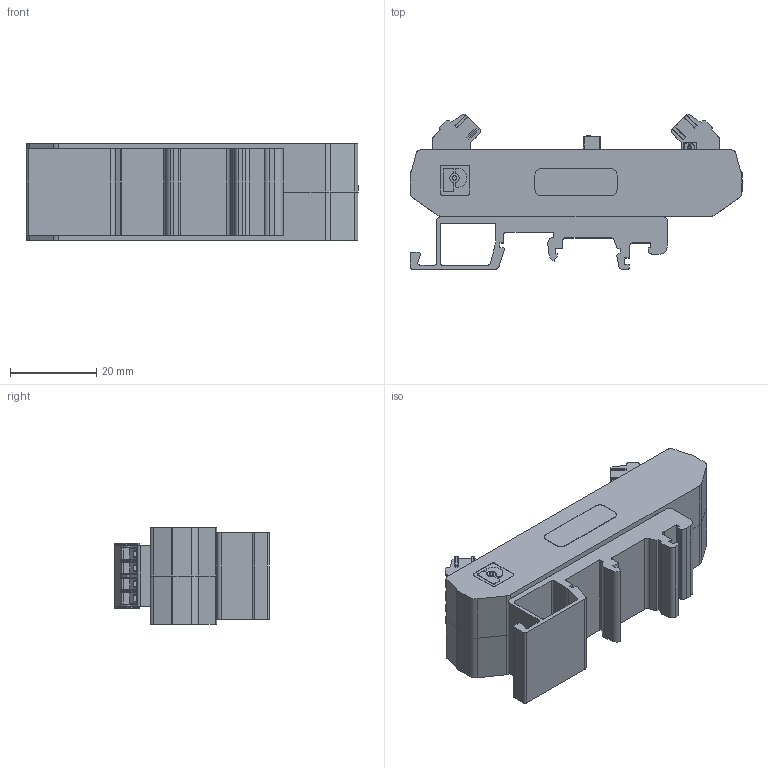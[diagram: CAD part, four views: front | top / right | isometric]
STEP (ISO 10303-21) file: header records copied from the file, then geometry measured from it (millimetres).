
FILE_DESCRIPTION(/* description */ ('DIN rail remote solenoid driver 5V 2A','CAx-IF Rec.Pracs.---Representation and Presentation of Product Manufacturing Information (PMI)---3.8---2014-02-18'),/* implementation_level */ '2;1');
FILE_NAME(/* name */ 'S:\Projects\RSD-LDR-SC-5V-2A, AX020100, Proj_15002\UNIT ASSEMBLY\RELEASED\A\AX020100.stp',/* time_stamp */ '2022-05-12T18:02:25-04:00',/* author */ ('tfisher'),/* organization */ (''),/* preprocessor_version */ 'ST-DEVELOPER v16.13',/* originating_system */ 'Autodesk Inventor 2018',/* authorisation */ '');
FILE_SCHEMA (('AP242_MANAGED_MODEL_BASED_3D_ENGINEERING_MIM_LF { 1 0 10303 442 1 1 4 }'));
Products named in the file (7): FG-AX020100 for STEP; PCB-15002-01-R1; LBM-SERIAL-01-R2; PTA 1.5/4-3.5; UMK-SE 11,25-1; UMK-FE; LBM-AX020100-01-R1
Assembly tree (8 placements, depth 2):
  FG-AX020100 for STEP
    PCB-15002-01-R1
    LBM-SERIAL-01-R2
    PTA 1.5/4-3.5  x2
    UMK-SE 11,25-1  x2
    UMK-FE
    LBM-AX020100-01-R1
Bounding box: 77 x 35.94 x 22.65 mm (x, y, z)
Volume: 25887.6 mm3; surface area: 23901 mm2
Topology: 8 solids, 8 shells, 5166 faces, 14671 edges, 9678 vertices
Faces by surface type: plane 4347, cylinder 743, cone 52, torus 16, bspline 8
Full cylindrical faces by diameter (mm): 0.457 x2, 0.508 x53, 0.9 x8, 1.016 x21, 1.058 x2, 1.27 x8, 1.3 x8, 2.032 x7, 2.9 x8, 3 x8, 3.1 x4
Entity records: 155816 total; most frequent: CARTESIAN_POINT 27115, ORIENTED_EDGE 26548, DIRECTION 23994, EDGE_CURVE 13274, LINE 11950, VECTOR 11950, VERTEX_POINT 8817, AXIS2_PLACEMENT_3D 6022
